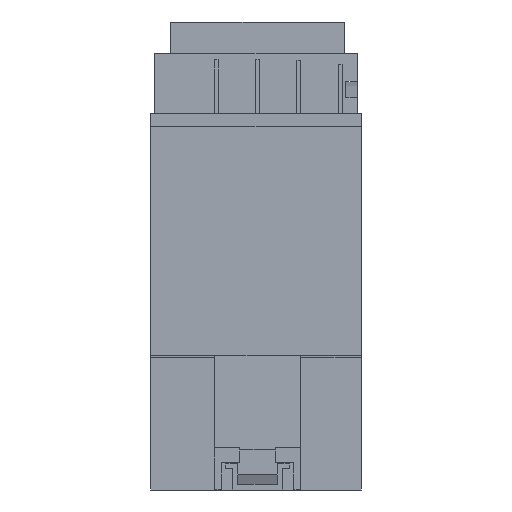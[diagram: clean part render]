
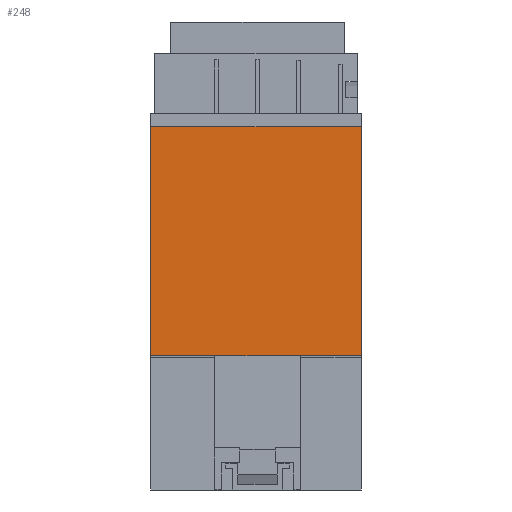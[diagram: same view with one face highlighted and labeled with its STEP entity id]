
A CAD part, front view. The second image highlights one B-rep face of the part: STEP entity #248.
In plain terms, the highlighted planar face has unit normal (0, -1, 0).
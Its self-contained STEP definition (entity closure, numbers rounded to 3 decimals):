
#248=ADVANCED_FACE('',(#888),#889,.T.);
#888=FACE_OUTER_BOUND('',#1781,.T.);
#889=PLANE('',#1782);
#1781=EDGE_LOOP('',(#3899,#3900,#3901,#3902,#3903,#3904));
#1782=AXIS2_PLACEMENT_3D('',#3905,#3906,#3907);
#3899=ORIENTED_EDGE('',*,*,#6517,.T.);
#3900=ORIENTED_EDGE('',*,*,#6025,.T.);
#3901=ORIENTED_EDGE('',*,*,#6516,.F.);
#3902=ORIENTED_EDGE('',*,*,#6081,.F.);
#3903=ORIENTED_EDGE('',*,*,#6518,.T.);
#3904=ORIENTED_EDGE('',*,*,#6519,.F.);
#3905=CARTESIAN_POINT('',(0.0,-13.583,34.437));
#3906=DIRECTION('',(0.0,-1.0,0.));
#3907=DIRECTION('',(0.0,0.,-1.0));
#6025=EDGE_CURVE('',#7308,#7306,#7309,.T.);
#6081=EDGE_CURVE('',#7416,#7418,#7419,.T.);
#6516=EDGE_CURVE('',#7418,#7306,#8139,.T.);
#6517=EDGE_CURVE('',#8140,#7308,#8141,.T.);
#6518=EDGE_CURVE('',#7416,#8142,#8143,.T.);
#6519=EDGE_CURVE('',#8140,#8142,#8144,.T.);
#7306=VERTEX_POINT('',#9341);
#7308=VERTEX_POINT('',#9344);
#7309=LINE('',#9345,#9346);
#7416=VERTEX_POINT('',#9507);
#7418=VERTEX_POINT('',#9510);
#7419=LINE('',#9511,#9512);
#8139=LINE('',#10646,#10647);
#8140=VERTEX_POINT('',#10648);
#8141=LINE('',#10649,#10650);
#8142=VERTEX_POINT('',#10651);
#8143=LINE('',#10652,#10653);
#8144=LINE('',#10654,#10655);
#9341=CARTESIAN_POINT('',(54.0,-13.583,93.041));
#9344=CARTESIAN_POINT('',(54.0,-13.583,34.437));
#9345=CARTESIAN_POINT('',(54.0,-13.583,34.437));
#9346=VECTOR('',#12191,58.604);
#9507=CARTESIAN_POINT('',(0.0,-13.583,34.437));
#9510=CARTESIAN_POINT('',(0.0,-13.583,93.041));
#9511=CARTESIAN_POINT('',(0.0,-13.583,34.437));
#9512=VECTOR('',#12247,58.604);
#10646=CARTESIAN_POINT('',(0.0,-13.583,93.041));
#10647=VECTOR('',#12744,54.0);
#10648=CARTESIAN_POINT('',(38.347,-13.583,34.437));
#10649=CARTESIAN_POINT('',(38.347,-13.583,34.437));
#10650=VECTOR('',#12745,15.653);
#10651=CARTESIAN_POINT('',(16.453,-13.583,34.437));
#10652=CARTESIAN_POINT('',(0.0,-13.583,34.437));
#10653=VECTOR('',#12746,16.453);
#10654=CARTESIAN_POINT('',(38.347,-13.583,34.437));
#10655=VECTOR('',#12747,21.895);
#12191=DIRECTION('',(0.0,0.,1.0));
#12247=DIRECTION('',(0.0,0.,1.0));
#12744=DIRECTION('',(1.0,0.0,0.0));
#12745=DIRECTION('',(1.0,0.0,0.0));
#12746=DIRECTION('',(1.0,0.0,0.0));
#12747=DIRECTION('',(-1.0,0.0,0.0));
